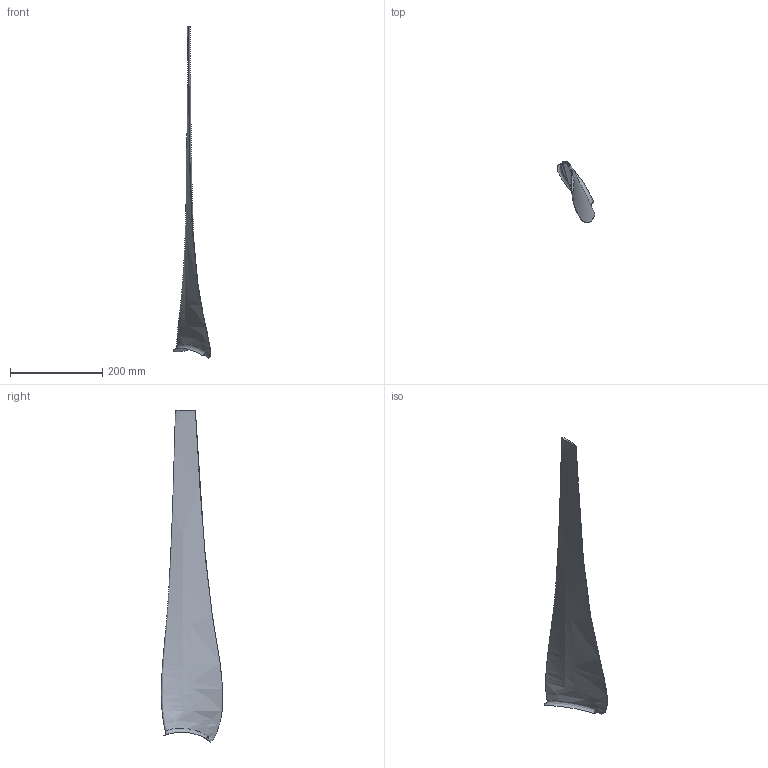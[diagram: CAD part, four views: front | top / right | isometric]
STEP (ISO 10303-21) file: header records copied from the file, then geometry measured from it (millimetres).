
FILE_DESCRIPTION (( 'STEP AP214' ), '1' );
FILE_NAME ('blade.STEP', '2021-12-06T15:28:49', ( '' ), ( '' ), 'SwSTEP 2.0', 'SolidWorks 2020', '' );
FILE_SCHEMA (( 'AUTOMOTIVE_DESIGN' ));
Length unit declared in the file: millimetre
Products named in the file (1): blade
Bounding box: 82.35 x 133.4 x 721.59 mm (x, y, z)
Volume: 623708.3 mm3; surface area: 134234.5 mm2
Topology: 1 solids, 1 shells, 12 faces, 27 edges, 16 vertices
Faces by surface type: bspline 9, cylinder 3
Entity records: 41548 total; most frequent: CARTESIAN_POINT 41216, ORIENTED_EDGE 52, EDGE_CURVE 26, B_SPLINE_CURVE_WITH_KNOTS 26, VERTEX_POINT 16, UNCERTAINTY_MEASURE_WITH_UNIT 14, PRESENTATION_LAYER_ASSIGNMENT 13, SURFACE_STYLE_FILL_AREA 13
